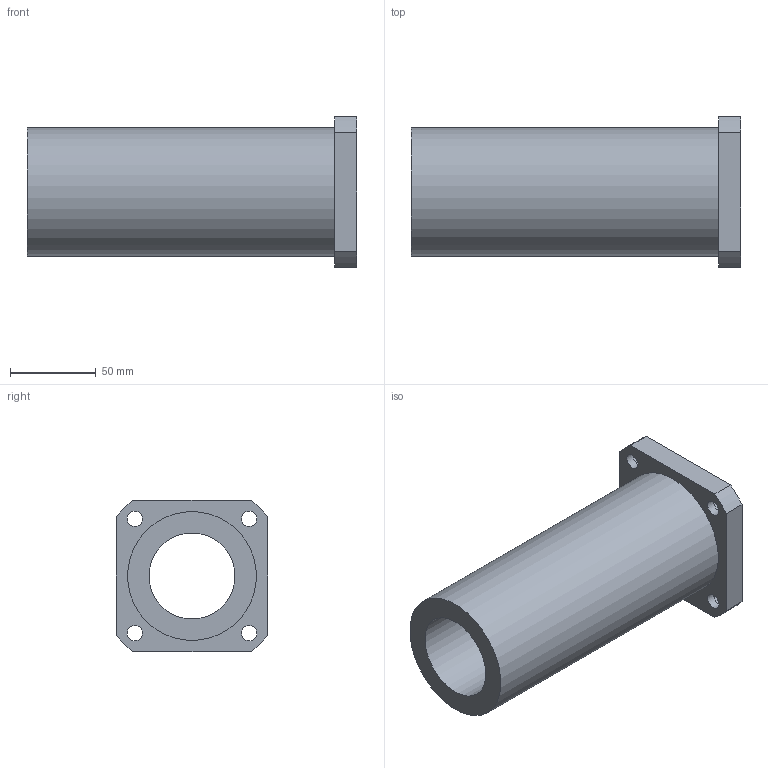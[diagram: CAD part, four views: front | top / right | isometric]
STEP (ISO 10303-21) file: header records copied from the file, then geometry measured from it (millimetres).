
FILE_DESCRIPTION(/* description */ (''),/* implementation_level */ '2;1');
FILE_NAME(/* name */ 'LMEK50LUU',/* time_stamp */ '2019-07-02T15:24:31+02:00',/* author */ ('VĂ©gh MĂˇtĂ©'),/* organization */ ('Bearing Kft'),/* preprocessor_version */ 'ST-DEVELOPER v16.7',/* originating_system */ 'DEX',/* authorisation */ $);
FILE_SCHEMA (('AUTOMOTIVE_DESIGN {1 0 10303 214 3 1 1}'));
Length unit declared in the file: millimetre
Products named in the file (1): LMEK50LUU
Bounding box: 192 x 88 x 88 mm (x, y, z)
Volume: 506128.1 mm3; surface area: 89387.3 mm2
Topology: 1 solids, 1 shells, 347 faces, 876 edges, 584 vertices
Faces by surface type: plane 272, bspline 59, cylinder 16
Full cylindrical faces by diameter (mm): 9 x4, 14 x4, 50 x1, 75 x1
Entity records: 13705 total; most frequent: CARTESIAN_POINT 5706, ORIENTED_EDGE 1726, DIRECTION 1355, EDGE_CURVE 863, LINE 713, VECTOR 713, VERTEX_POINT 584, EDGE_LOOP 423
